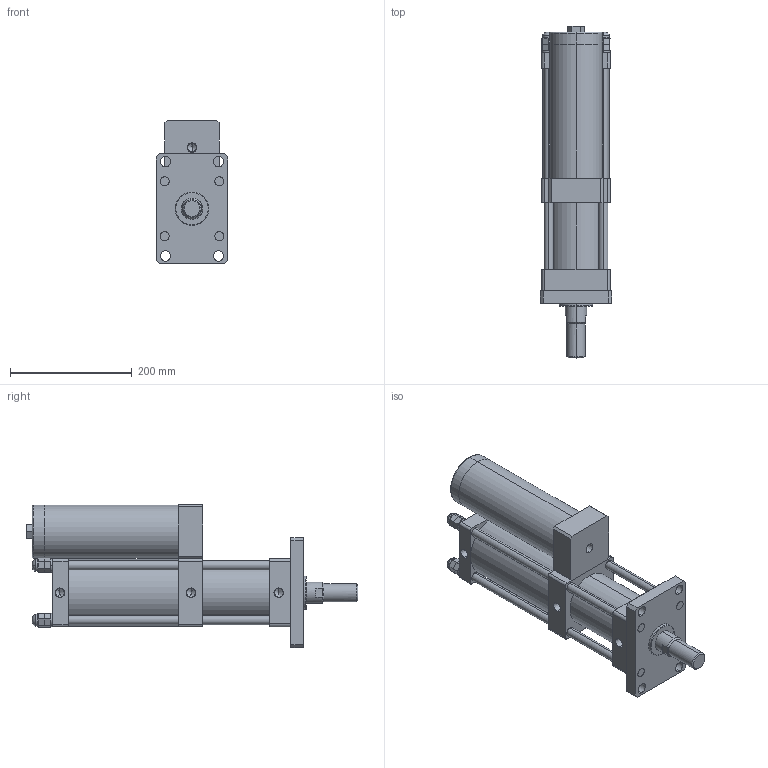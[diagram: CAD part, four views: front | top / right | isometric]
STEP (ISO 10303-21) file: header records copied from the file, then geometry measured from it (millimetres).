
FILE_DESCRIPTION (( 'STEP AP203' ), '1' );
FILE_NAME ('MPT-80-50-10-5T.STEP', '2016-03-10T09:20:02', ( 'WIN' ), ( '' ), 'SwSTEP 2.0', 'SolidWorks 2014', '' );
FILE_SCHEMA (( 'CONFIG_CONTROL_DESIGN' ));
Length unit declared in the file: millimetre
Products named in the file (1): MPT-80-50-10-5T
Bounding box: 118 x 545 x 235 mm (x, y, z)
Volume: 4928859.7 mm3; surface area: 590728 mm2
Topology: 20 solids, 20 shells, 390 faces, 954 edges, 554 vertices
Faces by surface type: plane 183, cylinder 84, torus 48, bspline 48, cone 27
Entity records: 12526 total; most frequent: CARTESIAN_POINT 3675, DIRECTION 1859, ORIENTED_EDGE 1776, EDGE_CURVE 888, AXIS2_PLACEMENT_3D 682, VERTEX_POINT 554, LINE 495, VECTOR 495
